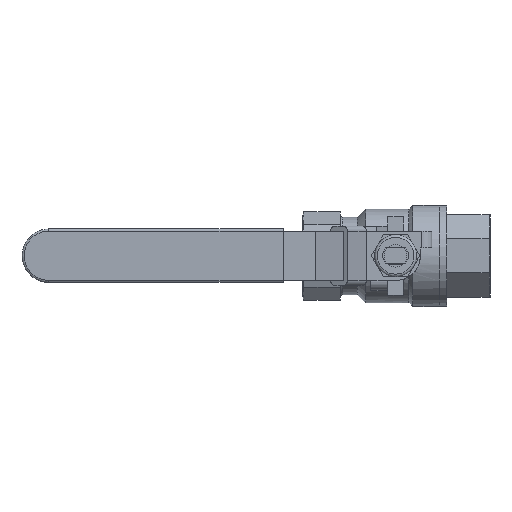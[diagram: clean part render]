
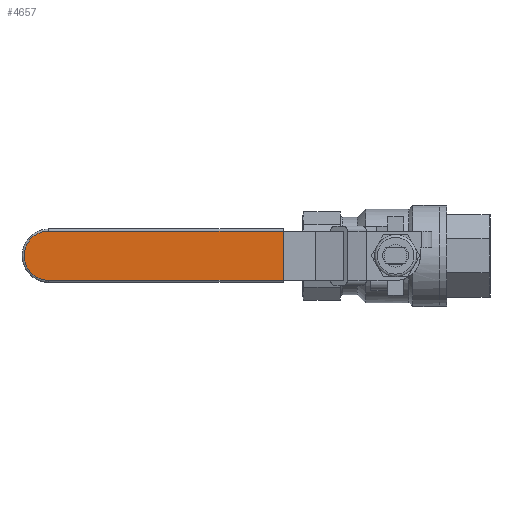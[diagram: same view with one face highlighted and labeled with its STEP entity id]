
A CAD part, top view. The second image highlights one B-rep face of the part: STEP entity #4657.
In plain terms, the highlighted planar face has unit normal (0, 0, 1).
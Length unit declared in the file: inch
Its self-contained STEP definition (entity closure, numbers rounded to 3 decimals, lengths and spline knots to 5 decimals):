
#4555=CARTESIAN_POINT('',(-0.23636,-0.295,2.60109));
#4556=VERTEX_POINT('',#4555);
#4564=CARTESIAN_POINT('',(-3.04136,-0.295,2.60109));
#4565=VERTEX_POINT('',#4564);
#4566=CARTESIAN_POINT('',(-0.23636,-0.295,2.60109));
#4567=DIRECTION('',(-1.0,0.0,0.0));
#4568=VECTOR('',#4567,2.805);
#4569=LINE('',#4566,#4568);
#4570=EDGE_CURVE('',#4556,#4565,#4569,.T.);
#4588=CARTESIAN_POINT('',(-3.04136,0.295,2.60109));
#4589=VERTEX_POINT('',#4588);
#4599=CARTESIAN_POINT('',(-3.04136,0.,2.60109));
#4600=DIRECTION('',(0.0,0.0,-1.0));
#4601=DIRECTION('',(-1.0,0.0,0.0));
#4602=AXIS2_PLACEMENT_3D('',#4599,#4600,#4601);
#4603=CIRCLE('',#4602,0.295);
#4604=EDGE_CURVE('',#4565,#4589,#4603,.T.);
#4614=CARTESIAN_POINT('',(-0.23636,0.295,2.60109));
#4615=VERTEX_POINT('',#4614);
#4632=CARTESIAN_POINT('',(-3.04136,0.295,2.60109));
#4633=DIRECTION('',(1.0,0.0,0.0));
#4634=VECTOR('',#4633,2.805);
#4635=LINE('',#4632,#4634);
#4636=EDGE_CURVE('',#4589,#4615,#4635,.T.);
#4641=CARTESIAN_POINT('',(-3.36136,-0.295,2.60109));
#4642=DIRECTION('',(0.0,0.0,1.0));
#4643=DIRECTION('',(0.0,-1.0,0.0));
#4644=AXIS2_PLACEMENT_3D('',#4641,#4642,#4643);
#4645=PLANE('',#4644);
#4646=ORIENTED_EDGE('',*,*,#4636,.F.);
#4647=ORIENTED_EDGE('',*,*,#4604,.F.);
#4648=ORIENTED_EDGE('',*,*,#4570,.F.);
#4649=CARTESIAN_POINT('',(-0.23636,-0.295,2.60109));
#4650=DIRECTION('',(0.0,1.0,0.0));
#4651=VECTOR('',#4650,0.59);
#4652=LINE('',#4649,#4651);
#4653=EDGE_CURVE('',#4556,#4615,#4652,.T.);
#4654=ORIENTED_EDGE('',*,*,#4653,.T.);
#4655=EDGE_LOOP('',(#4646,#4647,#4648,#4654));
#4656=FACE_OUTER_BOUND('',#4655,.T.);
#4657=ADVANCED_FACE('',(#4656),#4645,.T.);
